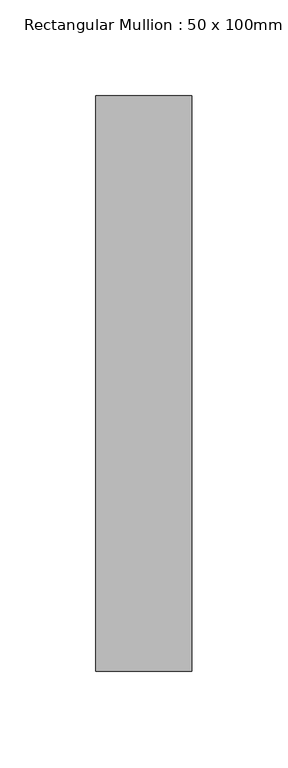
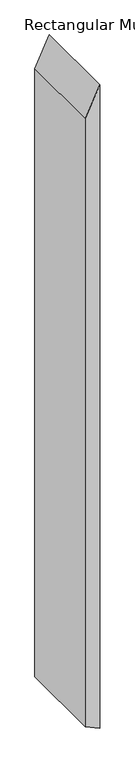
"""IFC4 building model written with IfcOpenShell, lengths in millimetres: member geometry, Rectangular Mullion : 50 x 100mm."""

from ifc_helpers import new_model, si_unit, frame, origin, place, context, project, spatial, polyline, outline, extrude, source, transform, mapped, element, save


def rectangular_mullion_50_x_100mm_d6c749a0(model_context):
    return source(origin(), model_context, "Body", "SweptSolid", [
        extrude(outline(polyline([(0.0, 0.0), (-105.5913796, -50.0), (-2319.7811492, -50.0), (-2343.4573244, 0.0), (0.0, 0.0)])), frame((0.0, -125.0, 0.0), z_axis=(0.0, 1.0, 0.0), x_axis=(0.0, 0.0, 1.0)), (0.0, 0.0, 1.0), 300.0),
    ])


if __name__ == "__main__":
    model = new_model("IFC4")
    model_context = context("Model", 3, world=origin())
    ifc_project = project(units=[si_unit("LENGTHUNIT", "METRE", prefix="MILLI")], contexts=[model_context])
    site = spatial("IfcSite", under=ifc_project)
    building = spatial("IfcBuilding", under=site)
    placement = place(None, origin())
    rectangular_mullion_50_x_100mm_shape = rectangular_mullion_50_x_100mm_d6c749a0(model_context)
    element("IfcMember", 1, ObjectType="Rectangular Mullion : 50 x 100mm", at=placement, inside=building, context=model_context, shape_type="MappedRepresentation", body=[
        mapped(rectangular_mullion_50_x_100mm_shape, transform((0.0, 0.0, 0.0), x_axis=(1.0, 0.0, 0.0), y_axis=(0.0, 1.0, 0.0), z_axis=(0.0, 0.0, 1.0))),
    ])
    save(model, "model.ifc")
